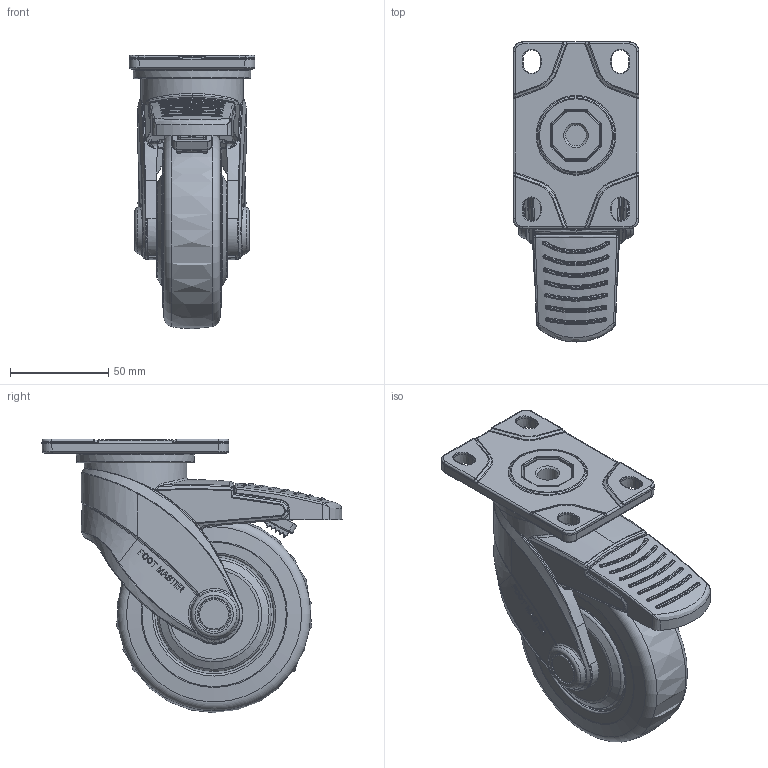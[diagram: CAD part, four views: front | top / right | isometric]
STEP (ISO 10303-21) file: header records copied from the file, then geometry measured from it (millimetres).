
FILE_DESCRIPTION(/* description */ (''),/* implementation_level */ '2;1');
FILE_NAME(/* name */ '\\192.168.10.38\지덕공유\1.기술연구소\2.연구개발 진행중\129.Plastic caster검토건_2025.08.12\1.도면\4.홈페이지용 도면\GPC-100-BSF_F4-8_#6806_KING PIN-M12_샤프트 리벳_Shrinkwrap_1.stp',/* time_stamp */ '2026-08-20T20:02:53+09:00',/* author */ ('admin'),/* organization */ (''),/* preprocessor_version */ 'ST-DEVELOPER v18.1',/* originating_system */ 'Autodesk Inventor 2021',/* authorisation */ '');
FILE_SCHEMA (('AUTOMOTIVE_DESIGN { 1 0 10303 214 3 1 1 }'));
Products named in the file (1): #108927
Bounding box: 63.93 x 152.46 x 139 mm (x, y, z)
Volume: 439234.6 mm3; surface area: 75094.7 mm2
Topology: 1 solids, 1 shells, 1869 faces, 4709 edges, 2849 vertices
Faces by surface type: bspline 956, plane 416, cylinder 301, torus 74, cone 71, sphere 51
Full cylindrical faces by diameter (mm): 10.5 x1, 52 x1
Entity records: 108867 total; most frequent: CARTESIAN_POINT 70246, ORIENTED_EDGE 9340, DIRECTION 5927, EDGE_CURVE 4670, VERTEX_POINT 2849, AXIS2_PLACEMENT_3D 2348, B_SPLINE_CURVE_WITH_KNOTS 1984, EDGE_LOOP 1931
